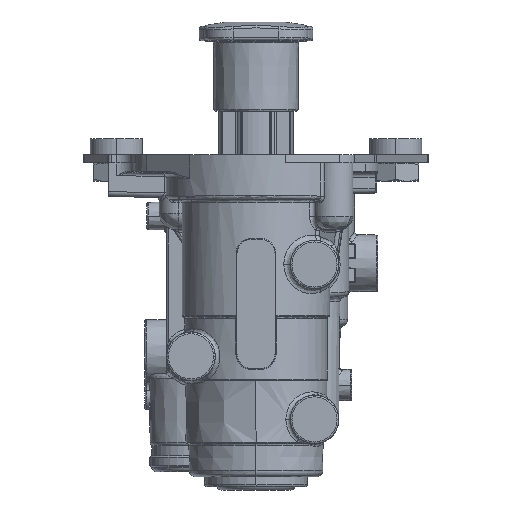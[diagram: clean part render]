
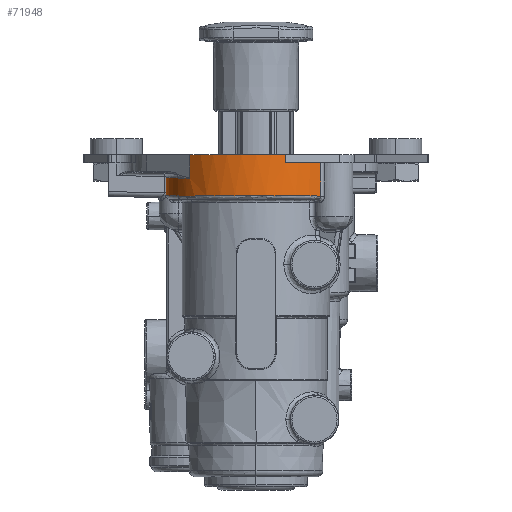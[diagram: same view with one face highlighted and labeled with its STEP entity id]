
A CAD part, left-side view. The second image highlights one B-rep face of the part: STEP entity #71948.
In plain terms, the highlighted cylindrical face has radius 27.675 mm (diameter 55.35 mm), a partial arc.
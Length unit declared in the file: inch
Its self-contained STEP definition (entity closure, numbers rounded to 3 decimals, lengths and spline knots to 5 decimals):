
#6392=CARTESIAN_POINT('',(-3.09831,0.80331,
-0.06575));
#6393=CARTESIAN_POINT('',(-3.09816,0.80344,
-0.06575));
#6394=CARTESIAN_POINT('',(-3.09788,0.80371,
-0.06575));
#6395=CARTESIAN_POINT('',(-3.09759,0.80397,
-0.06575));
#6396=CARTESIAN_POINT('',(-3.09745,0.8041,
-0.06575));
#6398=DIRECTION('',(0.,0.,1.));
#6399=VECTOR('',#6398,0.09843);
#6400=CARTESIAN_POINT('',(-3.09831,0.80331,
-0.06575));
#6401=LINE('',#6400,#6399);
#6402=CARTESIAN_POINT('',(-2.3622,0.,0.03268));
#6403=DIRECTION('',(0.,0.,1.));
#6404=DIRECTION('',(-0.676,0.737,0.));
#6405=AXIS2_PLACEMENT_3D('',#6402,#6403,#6404);
#6407=DIRECTION('',(0.,0.,-1.));
#6408=VECTOR('',#6407,0.09843);
#6409=CARTESIAN_POINT('',(-3.39135,-0.35778,
0.03268));
#6410=LINE('',#6409,#6408);
#6411=CARTESIAN_POINT('',(-2.3622,0.,-0.06575));
#6412=DIRECTION('',(0.,0.,-1.));
#6413=DIRECTION('',(-0.696,-0.718,0.));
#6414=AXIS2_PLACEMENT_3D('',#6411,#6412,#6413);
#6416=CARTESIAN_POINT('',(-3.12066,-0.78224,
-0.46606));
#6417=CARTESIAN_POINT('',(-3.16447,-0.73977,
-0.46569));
#6418=CARTESIAN_POINT('',(-3.24492,-0.64744,
-0.46501));
#6419=CARTESIAN_POINT('',(-3.34076,-0.49072,
-0.46421));
#6420=CARTESIAN_POINT('',(-3.40904,-0.32019,
-0.46363));
#6421=CARTESIAN_POINT('',(-3.44784,-0.14063,
-0.46331));
#6422=CARTESIAN_POINT('',(-3.45607,0.04288,
-0.46324));
#6423=CARTESIAN_POINT('',(-3.4335,0.22519,
-0.46343));
#6424=CARTESIAN_POINT('',(-3.38076,0.40115,
-0.46387));
#6425=CARTESIAN_POINT('',(-3.29934,0.56582,
-0.46456));
#6426=CARTESIAN_POINT('',(-3.19153,0.71455,
-0.46546));
#6427=CARTESIAN_POINT('',(-3.06039,0.84319,
-0.46657));
#6428=CARTESIAN_POINT('',(-2.95981,0.91304,
-0.46741));
#6429=CARTESIAN_POINT('',(-2.90696,0.94355,
-0.46785));
#6431=DIRECTION('',(-0.008,0.013,1.));
#6432=VECTOR('',#6431,0.00335);
#6433=CARTESIAN_POINT('',(-2.90696,0.94355,
-0.46785));
#6434=LINE('',#6433,#6432);
#6435=CARTESIAN_POINT('',(-2.90699,0.94359,
-0.4645));
#6436=CARTESIAN_POINT('',(-2.8902,0.95329,
-0.46442));
#6437=CARTESIAN_POINT('',(-2.85609,0.97178,
-0.46427));
#6438=CARTESIAN_POINT('',(-2.80353,0.99675,
-0.46406));
#6439=CARTESIAN_POINT('',(-2.74971,1.01888,
-0.46387));
#6440=CARTESIAN_POINT('',(-2.69479,1.03811,
-0.46371));
#6441=CARTESIAN_POINT('',(-2.63892,1.05438,
-0.46357));
#6442=CARTESIAN_POINT('',(-2.58226,1.06764,
-0.46346));
#6443=CARTESIAN_POINT('',(-2.52497,1.07786,
-0.46337));
#6444=CARTESIAN_POINT('',(-2.46722,1.08501,
-0.46331));
#6445=CARTESIAN_POINT('',(-2.40917,1.08907,
-0.46328));
#6446=CARTESIAN_POINT('',(-2.35099,1.09003,
-0.46327));
#6447=CARTESIAN_POINT('',(-2.29283,1.08788,
-0.46329));
#6448=CARTESIAN_POINT('',(-2.23488,1.08262,
-0.46333));
#6449=CARTESIAN_POINT('',(-2.17729,1.07429,
-0.4634));
#6450=CARTESIAN_POINT('',(-2.12022,1.06289,
-0.4635));
#6451=CARTESIAN_POINT('',(-2.08264,1.05327,
-0.46358));
#6452=CARTESIAN_POINT('',(-2.06399,1.04796,
-0.46362));
#6454=DIRECTION('',(0.,0.,1.));
#6455=VECTOR('',#6454,0.21736);
#6456=CARTESIAN_POINT('',(-2.06399,1.04796,
-0.46362));
#6457=LINE('',#6456,#6455);
#6458=CARTESIAN_POINT('',(-2.06399,1.04796,
-0.24627));
#6459=CARTESIAN_POINT('',(-2.07555,1.05125,
-0.24624));
#6460=CARTESIAN_POINT('',(-2.1207,1.0633,
-0.24613));
#6461=CARTESIAN_POINT('',(-2.20068,1.07921,
-0.24598));
#6462=CARTESIAN_POINT('',(-2.30441,1.0897,
-0.24588));
#6463=CARTESIAN_POINT('',(-2.40867,1.09024,
-0.24588));
#6464=CARTESIAN_POINT('',(-2.51252,1.08083,
-0.24596));
#6465=CARTESIAN_POINT('',(-2.61501,1.06154,
-0.24614));
#6466=CARTESIAN_POINT('',(-2.71525,1.03254,
-0.24641));
#6467=CARTESIAN_POINT('',(-2.81226,0.9941,
-0.24676));
#6468=CARTESIAN_POINT('',(-2.87503,0.96198,
-0.24706));
#6469=CARTESIAN_POINT('',(-2.90595,0.94419,
-0.24722));
#6470=CARTESIAN_POINT('',(-2.90677,0.94372,
-0.24723));
#6472=CARTESIAN_POINT('',(-2.90676,0.94373,
-0.2509));
#6473=CARTESIAN_POINT('',(-2.93468,0.92762,
-0.25064));
#6474=CARTESIAN_POINT('',(-2.99142,0.89142,
-0.25012));
#6475=CARTESIAN_POINT('',(-3.05384,0.84295,
-0.24954));
#6476=CARTESIAN_POINT('',(-3.08882,0.81199,
-0.24922));
#6477=CARTESIAN_POINT('',(-3.09745,0.8041,
-0.24914));
#6479=DIRECTION('',(0.,0.,1.));
#6480=VECTOR('',#6479,0.1834);
#6481=CARTESIAN_POINT('',(-3.09745,0.8041,
-0.24914));
#6482=LINE('',#6481,#6480);
#9945=CARTESIAN_POINT('',(-3.12066,-0.78224,
-0.46606));
#9997=DIRECTION('',(0.,0.,1.));
#9998=VECTOR('',#9997,0.40031);
#9999=CARTESIAN_POINT('',(-3.12066,-0.78224,
-0.46606));
#10000=LINE('',#9999,#9998);
#35848=DIRECTION('',(-0.007,0.007,1.));
#35849=VECTOR('',#35848,0.00368);
#35850=CARTESIAN_POINT('',(-2.90676,0.94373,
-0.2509));
#35851=LINE('',#35850,#35849);
#53695=CARTESIAN_POINT('',(-2.90696,0.94355,
-0.46785));
#53696=CARTESIAN_POINT('',(-2.90699,0.94359,
-0.4645));
#53697=VERTEX_POINT('',#53695);
#53698=VERTEX_POINT('',#53696);
#53699=VERTEX_POINT('',#6452);
#53700=CARTESIAN_POINT('',(-2.06399,1.04796,
-0.24627));
#53701=VERTEX_POINT('',#53700);
#53702=VERTEX_POINT('',#6470);
#53703=CARTESIAN_POINT('',(-2.90676,0.94373,
-0.2509));
#53704=VERTEX_POINT('',#53703);
#53705=VERTEX_POINT('',#6477);
#53768=VERTEX_POINT('',#9945);
#57633=CARTESIAN_POINT('',(-3.39135,-0.35778,
0.03268));
#57634=VERTEX_POINT('',#57633);
#57635=CARTESIAN_POINT('',(-3.09831,0.80331,
0.03268));
#57636=VERTEX_POINT('',#57635);
#57731=CARTESIAN_POINT('',(-3.12066,-0.78224,
-0.06575));
#57732=CARTESIAN_POINT('',(-3.39135,-0.35778,
-0.06575));
#57733=VERTEX_POINT('',#57731);
#57734=VERTEX_POINT('',#57732);
#57735=VERTEX_POINT('',#6392);
#57736=VERTEX_POINT('',#6396);
#71919=CARTESIAN_POINT('',(-2.3622,0.,0.19329));
#71920=DIRECTION('',(0.,0.,-1.));
#71921=DIRECTION('',(1.,0.,0.));
#71922=AXIS2_PLACEMENT_3D('',#71919,#71920,#71921);
#71923=CYLINDRICAL_SURFACE('',#71922,1.08957);
#71924=ORIENTED_EDGE('',*,*,#71894,.F.);
#71925=ORIENTED_EDGE('',*,*,#71892,.T.);
#71926=ORIENTED_EDGE('',*,*,#70347,.T.);
#71928=ORIENTED_EDGE('',*,*,#71927,.T.);
#71930=ORIENTED_EDGE('',*,*,#71929,.F.);
#71932=ORIENTED_EDGE('',*,*,#71931,.F.);
#71934=ORIENTED_EDGE('',*,*,#71933,.T.);
#71936=ORIENTED_EDGE('',*,*,#71935,.T.);
#71938=ORIENTED_EDGE('',*,*,#71937,.T.);
#71939=ORIENTED_EDGE('',*,*,#71609,.T.);
#71940=ORIENTED_EDGE('',*,*,#71747,.T.);
#71942=ORIENTED_EDGE('',*,*,#71941,.F.);
#71944=ORIENTED_EDGE('',*,*,#71943,.T.);
#71945=ORIENTED_EDGE('',*,*,#71896,.T.);
#71946=EDGE_LOOP('',(#71924,#71925,#71926,#71928,#71930,#71932,#71934,#71936,
#71938,#71939,#71940,#71942,#71944,#71945));
#71947=FACE_OUTER_BOUND('',#71946,.F.);
#6397=B_SPLINE_CURVE_WITH_KNOTS('',3,(#6392,#6393,#6394,#6395,#6396),
.UNSPECIFIED.,.F.,.F.,(4,1,4),(0.,0.5,1.),.UNSPECIFIED.);
#6406=CIRCLE('',#6405,1.08957);
#6415=CIRCLE('',#6414,1.08957);
#6430=B_SPLINE_CURVE_WITH_KNOTS('',3,(#6416,#6417,#6418,#6419,#6420,#6421,#6422,
#6423,#6424,#6425,#6426,#6427,#6428,#6429),.UNSPECIFIED.,.F.,.F.,(4,1,1,1,1,1,1,
1,1,1,1,4),(0.,0.09091,0.18182,0.27273,
0.36364,0.45455,0.54545,0.63636,
0.72727,0.81818,0.90909,1.),.UNSPECIFIED.);
#6453=B_SPLINE_CURVE_WITH_KNOTS('',3,(#6435,#6436,#6437,#6438,#6439,#6440,#6441,
#6442,#6443,#6444,#6445,#6446,#6447,#6448,#6449,#6450,#6451,#6452),
.UNSPECIFIED.,.F.,.F.,(4,1,1,1,1,1,1,1,1,1,1,1,1,1,1,4),(0.,0.06667,
0.13333,0.2,0.26667,0.33333,0.4,
0.46667,0.53333,0.6,0.66667,0.73333,
0.8,0.86667,0.93333,1.),.UNSPECIFIED.);
#6471=B_SPLINE_CURVE_WITH_KNOTS('',3,(#6458,#6459,#6460,#6461,#6462,#6463,#6464,
#6465,#6466,#6467,#6468,#6469,#6470),.UNSPECIFIED.,.F.,.F.,(4,1,1,1,1,1,1,1,1,1,
4),(0.,0.04132,0.16071,0.2801,
0.39949,0.51888,0.63829,0.75777,
0.87732,0.99676,1.),.UNSPECIFIED.);
#6478=B_SPLINE_CURVE_WITH_KNOTS('',3,(#6472,#6473,#6474,#6475,#6476,#6477),
.UNSPECIFIED.,.F.,.F.,(4,1,1,4),(0.,0.40835,0.85188,1.),
.UNSPECIFIED.);
#70347=EDGE_CURVE('',#57636,#57634,#6406,.T.);
#71609=EDGE_CURVE('',#53699,#53701,#6457,.T.);
#71747=EDGE_CURVE('',#53701,#53702,#6471,.T.);
#71892=EDGE_CURVE('',#57735,#57636,#6401,.T.);
#71894=EDGE_CURVE('',#57735,#57736,#6397,.T.);
#71896=EDGE_CURVE('',#53705,#57736,#6482,.T.);
#71927=EDGE_CURVE('',#57634,#57734,#6410,.T.);
#71929=EDGE_CURVE('',#57733,#57734,#6415,.T.);
#71931=EDGE_CURVE('',#53768,#57733,#10000,.T.);
#71933=EDGE_CURVE('',#53768,#53697,#6430,.T.);
#71935=EDGE_CURVE('',#53697,#53698,#6434,.T.);
#71937=EDGE_CURVE('',#53698,#53699,#6453,.T.);
#71941=EDGE_CURVE('',#53704,#53702,#35851,.T.);
#71943=EDGE_CURVE('',#53704,#53705,#6478,.T.);
#71948=ADVANCED_FACE('',(#71947),#71923,.T.);
